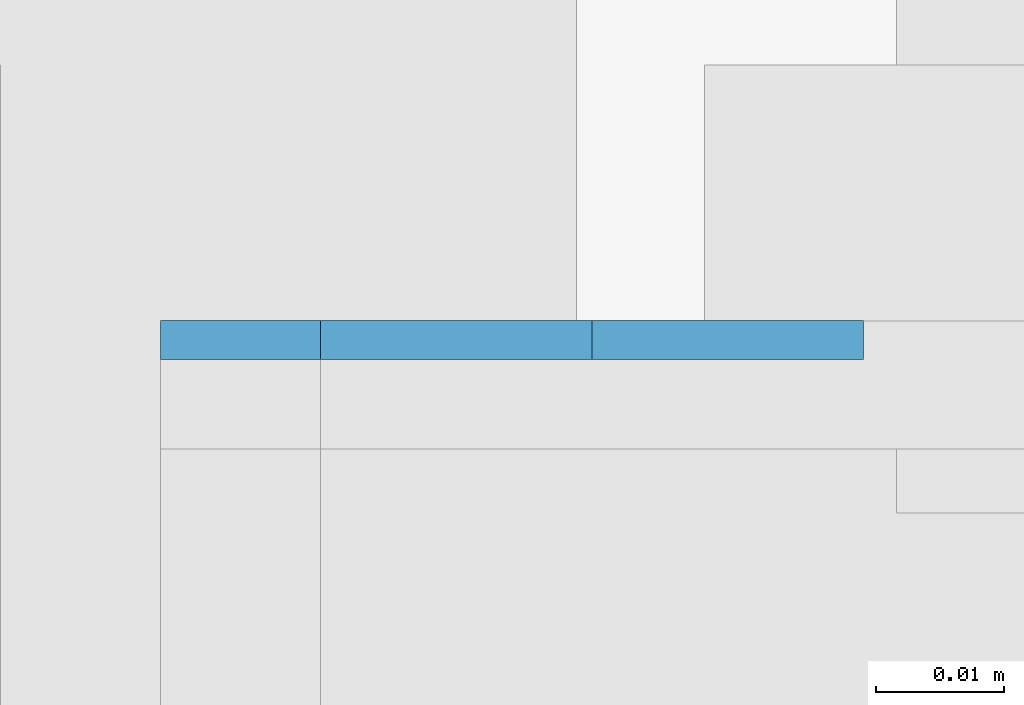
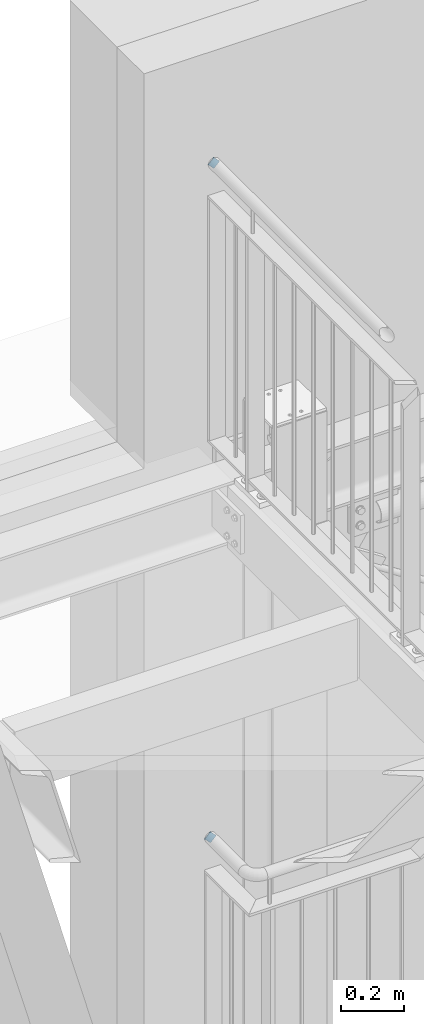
# One storey, part 226 of 821: 2 plates, 8 openings.
"""IFC2X3 building model written with IfcOpenShell, lengths in millimetres."""

from ifc_helpers import new_model, entity, si_unit, converted_unit, point, frame, frame_2d, origin, origin_with_axes, place, context, project, spatial, polyline, circle_curve, line_curve, trimmed, segment, composite_curve, outline, extrude, material, layer, layer_set, element, save


model = new_model("IFC2X3")

# Units and contexts
model_context = context("Model", 3, precision=1e-09, world=origin_with_axes())
ifc_project = project(units=[si_unit("LENGTHUNIT", "METRE", prefix="MILLI"), si_unit("AREAUNIT", "SQUARE_METRE"), si_unit("VOLUMEUNIT", "CUBIC_METRE"), converted_unit("PLANEANGLEUNIT", "DEGREE", entity("IfcPlaneAngleMeasure", 0.01745329), si_unit("PLANEANGLEUNIT", "RADIAN"), dimensions=[0, 0, 0, 0, 0, 0, 0])], contexts=[model_context])

# Site, building, storey
site_placement = place(None, origin_with_axes())
site = spatial("IfcSite", under=ifc_project, at=site_placement, Name="Cnopf'sche Kinderklinik", CompositionType="ELEMENT")
building_placement = place(site_placement, origin_with_axes())
building = spatial("IfcBuilding", under=site, at=building_placement, Name="Struktur 1", CompositionType="ELEMENT")
storey_placement = place(building_placement, origin_with_axes())
storey = spatial("IfcBuildingStorey", under=building, at=storey_placement, Name="Default Storey", CompositionType="ELEMENT", Elevation=0.0)

# Plate, openings
ifc_material = material(Name="S235JR")
ifc_layer = layer(ifc_material, 3.0)
ifc_layer_set = layer_set([ifc_layer], Name="S235JR")
plate_1_placement = place(None, frame((4626.713413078, 7608.73698848, 18974.000041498), z_axis=(0.0, 1.0, 0.0), x_axis=(0.0, 0.0, 1.0)))
plate_1 = element("IfcPlate", 1, at=plate_1_placement, inside=storey, material=ifc_layer_set, Name="-", ObjectType="-", context=model_context, shape_type="SweptSolid", body=[
    extrude(outline(polyline([(21.2, 0.0), (21.2, 42.4), (-21.2, 42.4), (-21.2, 0.0), (21.2, 0.0)])), origin_with_axes(), (0.0, 0.0, 1.0), 3.0),
])
opening_1_placement = place(plate_1_placement, frame((0.0, 0.0, -0.01), z_axis=(0.0, 0.0, 1.0), x_axis=(1.0, 0.0, 0.0)))
element("IfcOpeningElement", 2, at=opening_1_placement, cuts=plate_1, ObjectType="Opening", context=model_context, shape_type="SweptSolid", body=[
    extrude(outline(composite_curve([segment(trimmed(line_curve((21.2, 0.0), (0.0, 1.0), 21.2), [point((21.2, 0.0))], [point((21.2, 21.2))], True, "CARTESIAN"), True, "CONTINUOUS"), segment(trimmed(circle_curve(frame_2d((0.0, 21.2), x_axis=(-1.0, 0.0)), 21.2), [point((21.2, 21.2))], [point((0.0, 0.0))], False, "CARTESIAN"), True, "CONTINUOUS"), segment(trimmed(line_curve((0.0, 0.0), (1.0, 0.0), 21.2), [point((0.0, 0.0))], [point((21.2, 0.0))], True, "CARTESIAN"), True, "CONTINUOUS")], self_intersect=False)), origin(), (0.0, 0.0, 1.0), 3.02),
])
opening_2_placement = place(plate_1_placement, frame((0.0, 0.0, -0.01), z_axis=(0.0, 0.0, 1.0), x_axis=(1.0, 0.0, 0.0)))
element("IfcOpeningElement", 3, at=opening_2_placement, cuts=plate_1, ObjectType="Opening", context=model_context, shape_type="SweptSolid", body=[
    extrude(outline(composite_curve([segment(trimmed(line_curve((21.2, 42.4), (-1.0, 0.0), 21.2), [point((21.2, 42.4))], [point((0.0, 42.4))], True, "CARTESIAN"), True, "CONTINUOUS"), segment(trimmed(circle_curve(frame_2d((0.0, 21.2), x_axis=(-1.0, 0.0)), 21.2), [point((0.0, 42.4))], [point((21.2, 21.2))], False, "CARTESIAN"), True, "CONTINUOUS"), segment(trimmed(line_curve((21.2, 21.2), (0.0, 1.0), 21.2), [point((21.2, 21.2))], [point((21.2, 42.4))], True, "CARTESIAN"), True, "CONTINUOUS")], self_intersect=False)), origin(), (0.0, 0.0, 1.0), 3.02),
])
opening_3_placement = place(plate_1_placement, frame((0.0, 0.0, -0.01), z_axis=(0.0, 0.0, 1.0), x_axis=(1.0, 0.0, 0.0)))
element("IfcOpeningElement", 4, at=opening_3_placement, cuts=plate_1, ObjectType="Opening", context=model_context, shape_type="SweptSolid", body=[
    extrude(outline(composite_curve([segment(trimmed(line_curve((-21.2, 42.4), (0.0, -1.0), 21.2), [point((-21.2, 42.4))], [point((-21.2, 21.2))], True, "CARTESIAN"), True, "CONTINUOUS"), segment(trimmed(circle_curve(frame_2d((0.0, 21.2), x_axis=(-1.0, 0.0)), 21.2), [point((-21.2, 21.2))], [point((0.0, 42.4))], False, "CARTESIAN"), True, "CONTINUOUS"), segment(trimmed(line_curve((0.0, 42.4), (-1.0, 0.0), 21.2), [point((0.0, 42.4))], [point((-21.2, 42.4))], True, "CARTESIAN"), True, "CONTINUOUS")], self_intersect=False)), origin(), (0.0, 0.0, 1.0), 3.02),
])
opening_4_placement = place(plate_1_placement, frame((0.0, 0.0, -0.01), z_axis=(0.0, 0.0, 1.0), x_axis=(1.0, 0.0, 0.0)))
element("IfcOpeningElement", 5, at=opening_4_placement, cuts=plate_1, ObjectType="Opening", context=model_context, shape_type="SweptSolid", body=[
    extrude(outline(composite_curve([segment(trimmed(line_curve((-21.2, 0.0), (1.0, 0.0), 21.2), [point((-21.2, 0.0))], [point((0.0, 0.0))], True, "CARTESIAN"), True, "CONTINUOUS"), segment(trimmed(circle_curve(frame_2d((0.0, 21.2), x_axis=(-1.0, 0.0)), 21.2), [point((0.0, 0.0))], [point((-21.2, 21.2))], False, "CARTESIAN"), True, "CONTINUOUS"), segment(trimmed(line_curve((-21.2, 21.2), (0.0, -1.0), 21.2), [point((-21.2, 21.2))], [point((-21.2, 0.0))], True, "CARTESIAN"), True, "CONTINUOUS")], self_intersect=False)), origin(), (0.0, 0.0, 1.0), 3.02),
])

plate_2_placement = place(None, frame((4614.213403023, 7608.736971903, 16354.000000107), z_axis=(0.0, 1.0, 0.0), x_axis=(0.0, 0.0, 1.0)))
plate_2 = element("IfcPlate", 6, at=plate_2_placement, inside=storey, material=ifc_layer_set, Name="-", ObjectType="-", context=model_context, shape_type="SweptSolid", body=[
    extrude(outline(polyline([(21.2, 0.0), (21.2, 42.4), (-21.2, 42.4), (-21.2, 0.0), (21.2, 0.0)])), origin_with_axes(), (0.0, 0.0, 1.0), 3.0),
])
opening_5_placement = place(plate_2_placement, frame((0.0, 0.0, -0.01), z_axis=(0.0, 0.0, 1.0), x_axis=(1.0, 0.0, 0.0)))
element("IfcOpeningElement", 7, at=opening_5_placement, cuts=plate_2, ObjectType="Opening", context=model_context, shape_type="SweptSolid", body=[
    extrude(outline(composite_curve([segment(trimmed(line_curve((21.2, 0.0), (0.0, 1.0), 21.2), [point((21.2, 0.0))], [point((21.2, 21.2))], True, "CARTESIAN"), True, "CONTINUOUS"), segment(trimmed(circle_curve(frame_2d((0.0, 21.2), x_axis=(-1.0, 0.0)), 21.2), [point((21.2, 21.2))], [point((0.0, 0.0))], False, "CARTESIAN"), True, "CONTINUOUS"), segment(trimmed(line_curve((0.0, 0.0), (1.0, 0.0), 21.2), [point((0.0, 0.0))], [point((21.2, 0.0))], True, "CARTESIAN"), True, "CONTINUOUS")], self_intersect=False)), origin(), (0.0, 0.0, 1.0), 3.02),
])
opening_6_placement = place(plate_2_placement, frame((0.0, 0.0, -0.01), z_axis=(0.0, 0.0, 1.0), x_axis=(1.0, 0.0, 0.0)))
element("IfcOpeningElement", 8, at=opening_6_placement, cuts=plate_2, ObjectType="Opening", context=model_context, shape_type="SweptSolid", body=[
    extrude(outline(composite_curve([segment(trimmed(line_curve((21.2, 42.4), (-1.0, 0.0), 21.2), [point((21.2, 42.4))], [point((0.0, 42.4))], True, "CARTESIAN"), True, "CONTINUOUS"), segment(trimmed(circle_curve(frame_2d((0.0, 21.2), x_axis=(-1.0, 0.0)), 21.2), [point((0.0, 42.4))], [point((21.2, 21.2))], False, "CARTESIAN"), True, "CONTINUOUS"), segment(trimmed(line_curve((21.2, 21.2), (0.0, 1.0), 21.2), [point((21.2, 21.2))], [point((21.2, 42.4))], True, "CARTESIAN"), True, "CONTINUOUS")], self_intersect=False)), origin(), (0.0, 0.0, 1.0), 3.02),
])
opening_7_placement = place(plate_2_placement, frame((0.0, 0.0, -0.01), z_axis=(0.0, 0.0, 1.0), x_axis=(1.0, 0.0, 0.0)))
element("IfcOpeningElement", 9, at=opening_7_placement, cuts=plate_2, ObjectType="Opening", context=model_context, shape_type="SweptSolid", body=[
    extrude(outline(composite_curve([segment(trimmed(line_curve((-21.2, 42.4), (0.0, -1.0), 21.2), [point((-21.2, 42.4))], [point((-21.2, 21.2))], True, "CARTESIAN"), True, "CONTINUOUS"), segment(trimmed(circle_curve(frame_2d((0.0, 21.2), x_axis=(-1.0, 0.0)), 21.2), [point((-21.2, 21.2))], [point((0.0, 42.4))], False, "CARTESIAN"), True, "CONTINUOUS"), segment(trimmed(line_curve((0.0, 42.4), (-1.0, 0.0), 21.2), [point((0.0, 42.4))], [point((-21.2, 42.4))], True, "CARTESIAN"), True, "CONTINUOUS")], self_intersect=False)), origin(), (0.0, 0.0, 1.0), 3.02),
])
opening_8_placement = place(plate_2_placement, frame((0.0, 0.0, -0.01), z_axis=(0.0, 0.0, 1.0), x_axis=(1.0, 0.0, 0.0)))
element("IfcOpeningElement", 10, at=opening_8_placement, cuts=plate_2, ObjectType="Opening", context=model_context, shape_type="SweptSolid", body=[
    extrude(outline(composite_curve([segment(trimmed(line_curve((-21.2, 0.0), (1.0, 0.0), 21.2), [point((-21.2, 0.0))], [point((0.0, 0.0))], True, "CARTESIAN"), True, "CONTINUOUS"), segment(trimmed(circle_curve(frame_2d((0.0, 21.2), x_axis=(-1.0, 0.0)), 21.2), [point((0.0, 0.0))], [point((-21.2, 21.2))], False, "CARTESIAN"), True, "CONTINUOUS"), segment(trimmed(line_curve((-21.2, 21.2), (0.0, -1.0), 21.2), [point((-21.2, 21.2))], [point((-21.2, 0.0))], True, "CARTESIAN"), True, "CONTINUOUS")], self_intersect=False)), origin(), (0.0, 0.0, 1.0), 3.02),
])

save(model, "model.ifc")
